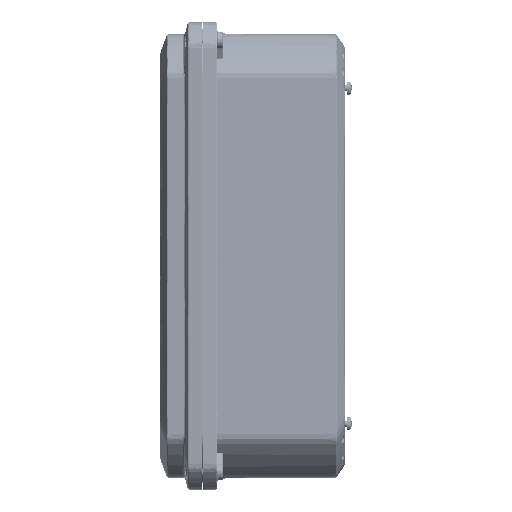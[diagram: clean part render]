
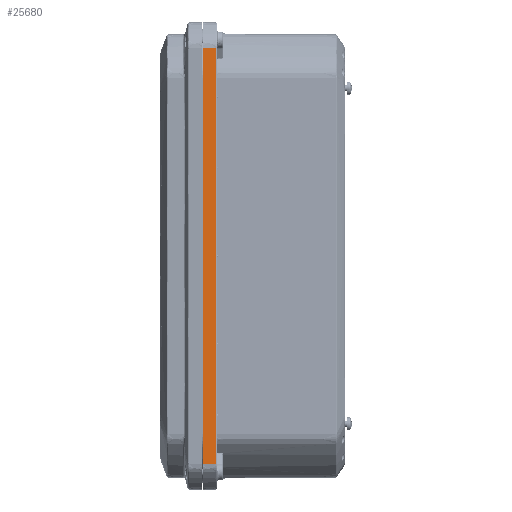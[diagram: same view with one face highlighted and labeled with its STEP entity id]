
A CAD part, left-side view. The second image highlights one B-rep face of the part: STEP entity #25680.
In plain terms, the highlighted planar face has unit normal (-0.999, -0.035, 0).
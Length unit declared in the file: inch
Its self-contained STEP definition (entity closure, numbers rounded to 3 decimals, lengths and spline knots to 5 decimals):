
#12114 = DIRECTION ( 'NONE',  ( 0.035, -0.999, 0. ) ) ;
#15282 = DIRECTION ( 'NONE',  ( -0.999, -0.035, 0. ) ) ;
#16708 = VECTOR ( 'NONE', #180555, 39.37008 ) ;
#17878 = VECTOR ( 'NONE', #190544, 39.37008 ) ;
#25680 = ADVANCED_FACE ( 'NONE', ( #110756 ), #160069, .T. ) ;
#47807 = VERTEX_POINT ( 'NONE', #154363 ) ;
#49969 = ORIENTED_EDGE ( 'NONE', *, *, #145856, .F. ) ;
#51675 = CARTESIAN_POINT ( 'NONE',  ( -7.60772, -0.35174, 5.89046 ) ) ;
#51943 = VERTEX_POINT ( 'NONE', #65519 ) ;
#55760 = VECTOR ( 'NONE', #12114, 39.37008 ) ;
#64617 = DIRECTION ( 'NONE',  ( 0.035, -0.999, 0. ) ) ;
#65519 = CARTESIAN_POINT ( 'NONE',  ( -7.62, 0., -5.89046 ) ) ;
#66244 = CARTESIAN_POINT ( 'NONE',  ( -7.60772, -0.35174, -5.89046 ) ) ;
#70072 = ORIENTED_EDGE ( 'NONE', *, *, #165398, .T. ) ;
#78247 = VERTEX_POINT ( 'NONE', #173016 ) ;
#95696 = AXIS2_PLACEMENT_3D ( 'NONE', #159013, #15282, #64617 ) ;
#95737 = LINE ( 'NONE', #142895, #55760 ) ;
#105563 = VERTEX_POINT ( 'NONE', #66244 ) ;
#105725 = EDGE_CURVE ( 'NONE', #51943, #47807, #125068, .T. ) ;
#110756 = FACE_OUTER_BOUND ( 'NONE', #160423, .T. ) ;
#115121 = CARTESIAN_POINT ( 'NONE',  ( -7.62, 0., 5.89046 ) ) ;
#120820 = VECTOR ( 'NONE', #200789, 39.37008 ) ;
#125068 = LINE ( 'NONE', #136906, #17878 ) ;
#134359 = LINE ( 'NONE', #115121, #16708 ) ;
#134412 = ORIENTED_EDGE ( 'NONE', *, *, #176963, .T. ) ;
#135259 = LINE ( 'NONE', #51675, #120820 ) ;
#136906 = CARTESIAN_POINT ( 'NONE',  ( -7.62, 0., 6.3 ) ) ;
#142895 = CARTESIAN_POINT ( 'NONE',  ( -7.62, 0., -5.89046 ) ) ;
#145856 = EDGE_CURVE ( 'NONE', #47807, #78247, #134359, .T. ) ;
#148389 = ORIENTED_EDGE ( 'NONE', *, *, #105725, .F. ) ;
#154363 = CARTESIAN_POINT ( 'NONE',  ( -7.62, 0., 5.89046 ) ) ;
#159013 = CARTESIAN_POINT ( 'NONE',  ( -7.62, 0., 6.3 ) ) ;
#160069 = PLANE ( 'NONE',  #95696 ) ;
#160423 = EDGE_LOOP ( 'NONE', ( #70072, #49969, #148389, #134412 ) ) ;
#165398 = EDGE_CURVE ( 'NONE', #105563, #78247, #135259, .T. ) ;
#173016 = CARTESIAN_POINT ( 'NONE',  ( -7.60772, -0.35174, 5.89046 ) ) ;
#176963 = EDGE_CURVE ( 'NONE', #51943, #105563, #95737, .T. ) ;
#180555 = DIRECTION ( 'NONE',  ( 0.035, -0.999, 0. ) ) ;
#190544 = DIRECTION ( 'NONE',  ( 0., 0., 1. ) ) ;
#200789 = DIRECTION ( 'NONE',  ( 0., 0., 1. ) ) ;
